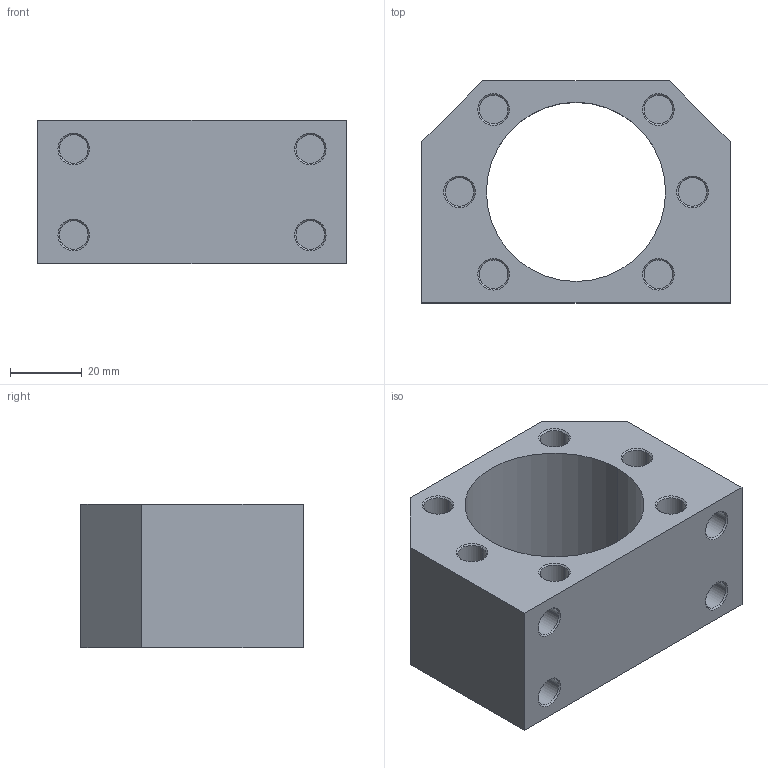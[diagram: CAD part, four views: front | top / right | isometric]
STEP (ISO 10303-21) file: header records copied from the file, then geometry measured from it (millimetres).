
FILE_DESCRIPTION (( 'STEP AP214' ), '1' );
FILE_NAME ('DSG32H.STEP', '2022-04-21T10:31:54', ( '' ), ( '' ), 'SwSTEP 2.0', 'SolidWorks 2019', '' );
FILE_SCHEMA (( 'AUTOMOTIVE_DESIGN' ));
Length unit declared in the file: millimetre
Products named in the file (1): DSG32H
Bounding box: 86 x 62 x 40 mm (x, y, z)
Volume: 116665.1 mm3; surface area: 26675.9 mm2
Topology: 1 solids, 1 shells, 60 faces, 132 edges, 84 vertices
Faces by surface type: cylinder 22, cone 20, plane 18
Entity records: 1930 total; most frequent: DIRECTION 326, CARTESIAN_POINT 277, ORIENTED_EDGE 264, AXIS2_PLACEMENT_3D 133, EDGE_CURVE 132, VERTEX_POINT 84, CIRCLE 72, EDGE_LOOP 72
